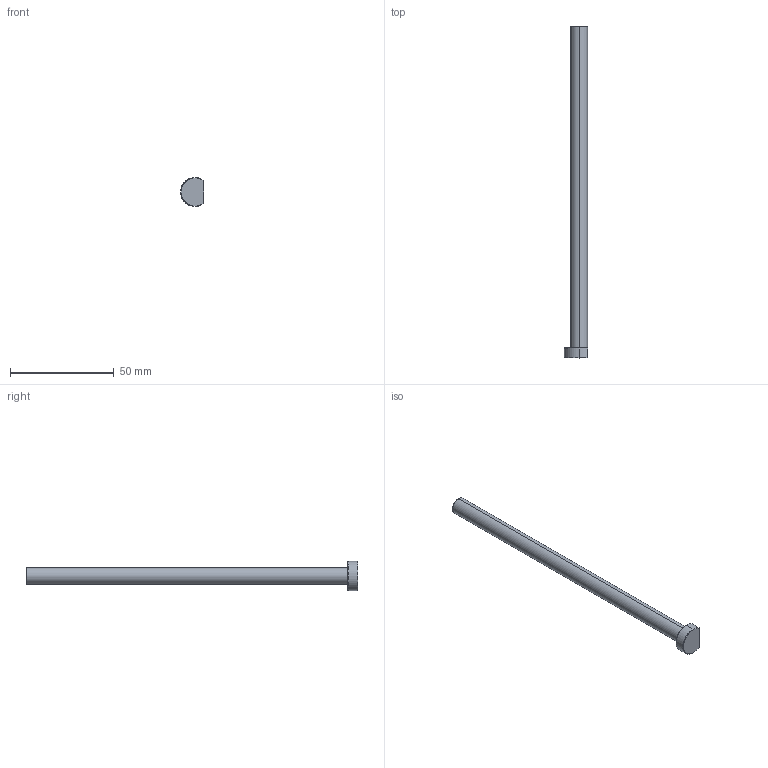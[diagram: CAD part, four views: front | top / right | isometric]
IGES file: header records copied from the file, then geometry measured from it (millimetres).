
Start section: SolidWorks IGES file using analytic representation for surfaces
Global section: file name: C:\Users\365admin\AppData\Local\Temp\InFlowConvert3DWorking\EPD082L160-K.igs; native system: SolidWorks 2019; preprocessor: SolidWorks 2019; author: 365admin; date: 220408.124048; units: millimetre
Bounding box: 11.1 x 160 x 14 mm (x, y, z)
Surface area: 4455.8 mm2 (no closed solid volume)
Topology: 0 solids, 0 shells, 18 faces, 195 edges, 195 vertices
Faces by surface type: revolution 11, bspline 7
